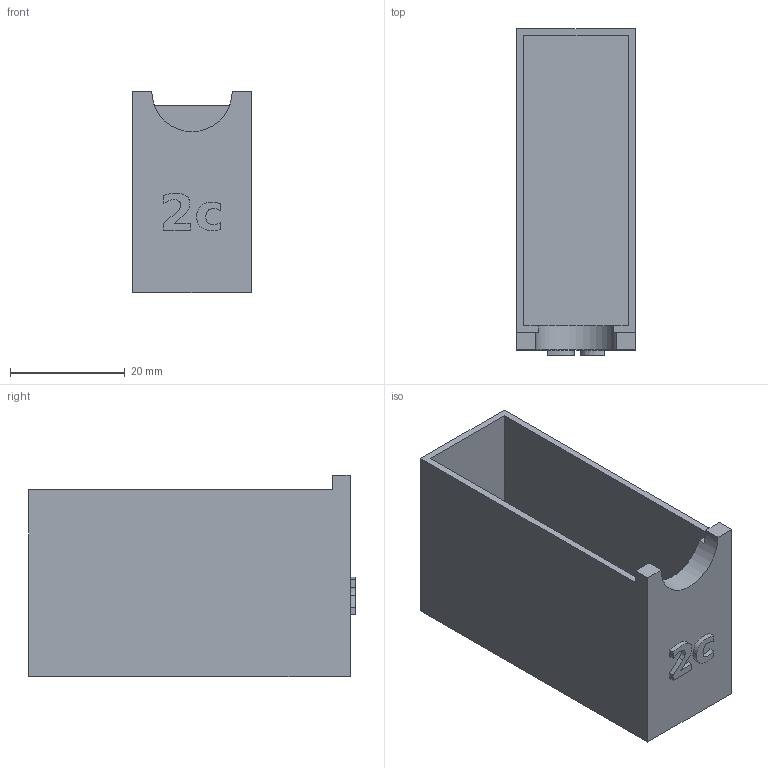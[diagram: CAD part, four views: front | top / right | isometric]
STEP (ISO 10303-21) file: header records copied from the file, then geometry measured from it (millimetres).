
FILE_DESCRIPTION(('Open CASCADE Model'),'2;1');
FILE_NAME('Open CASCADE Shape Model','2026-10-20T15:47:44',('Author'),( 'Open CASCADE'),'Open CASCADE STEP processor 8.0','build123d', 'Unknown');
FILE_SCHEMA(('AUTOMOTIVE_DESIGN { 1 0 10303 214 1 1 1 1 }'));
Length unit declared in the file: millimetre
Products named in the file (2): =>[0:1:1:2]; COMPOUND
Assembly tree (1 placements, depth 2):
  =>[0:1:1:2]
    COMPOUND
Bounding box: 20.65 x 56.84 x 35 mm (x, y, z)
Volume: 8572 mm3; surface area: 11632.8 mm2
Topology: 1 solids, 1 shells, 31 faces, 81 edges, 54 vertices
Faces by surface type: plane 26, extrusion 4, cylinder 1
Entity records: 2144 total; most frequent: CARTESIAN_POINT 530, DIRECTION 273, VECTOR 207, LINE 203, ORIENTED_EDGE 162, PCURVE 162, DEFINITIONAL_REPRESENTATION 162, EDGE_CURVE 81
